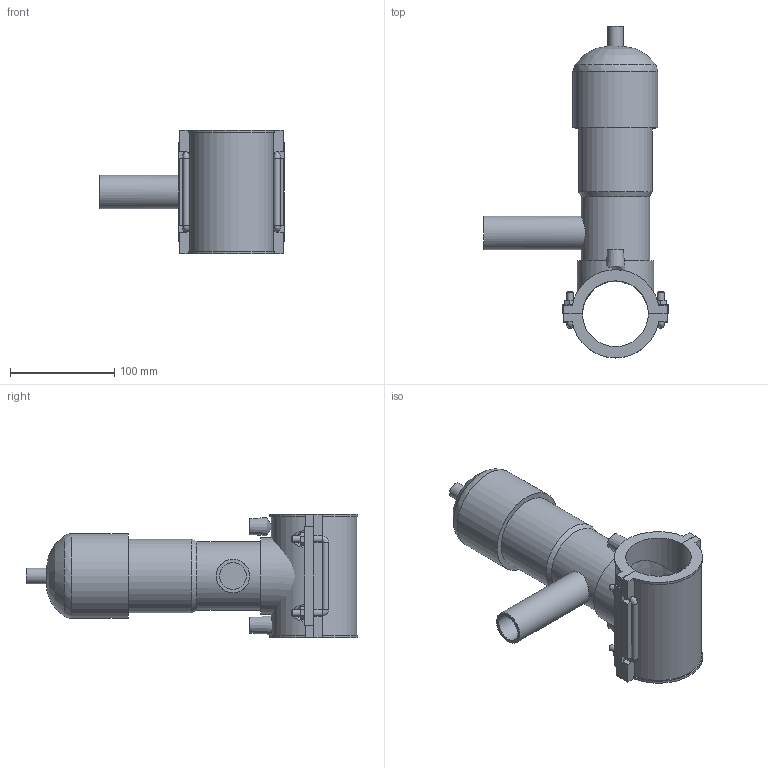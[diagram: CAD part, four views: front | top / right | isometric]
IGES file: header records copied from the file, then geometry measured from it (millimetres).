
Global section: file name: 495404063032.ipt; native system: Autodesk Inventor 2015; preprocessor: unknown; author: KIM; date: 20171106.094234; units: millimetre
Bounding box: 176.5 x 317.68 x 118 mm (x, y, z)
Volume: 1249628.2 mm3; surface area: 166132.8 mm2
Topology: 2 solids, 3 shells, 143 faces, 357 edges, 225 vertices
Faces by surface type: plane 91, cylinder 25, revolution 12, bspline 8, cone 7
Full cylindrical faces by diameter (mm): 4 x2, 6 x10, 14.64 x1, 32 x1, 65.88 x1, 70.76 x1, 73.2 x1, 81.333 x1
